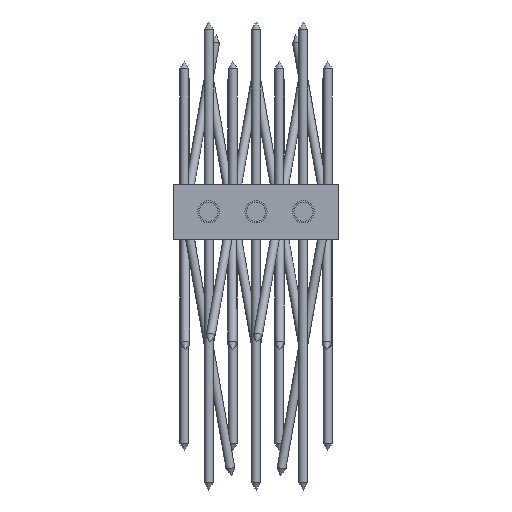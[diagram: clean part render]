
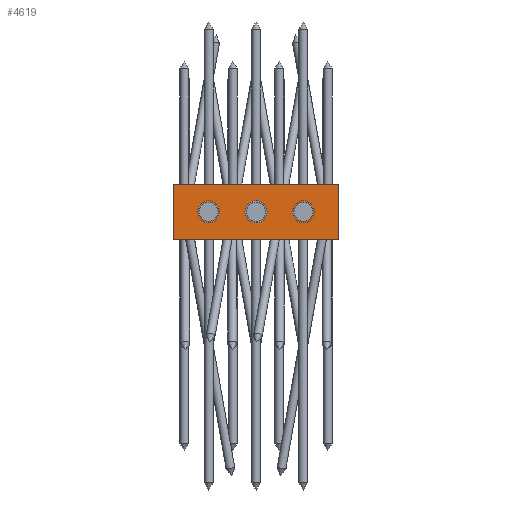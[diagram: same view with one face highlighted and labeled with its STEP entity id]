
A CAD part, front view. The second image highlights one B-rep face of the part: STEP entity #4619.
In plain terms, the highlighted planar face has unit normal (0, -1, 0) as drawn and (0, 0, 1) by its records, which use the part's own axes.
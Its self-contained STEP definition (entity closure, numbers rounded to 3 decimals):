
#339=LINE('',#8123,#619);
#347=LINE('',#8147,#627);
#348=LINE('',#8155,#628);
#349=LINE('',#8156,#629);
#619=VECTOR('',#6851,1000.);
#627=VECTOR('',#6871,1000.);
#628=VECTOR('',#6880,1000.);
#629=VECTOR('',#6881,1000.);
#1136=PLANE('',#5499);
#2166=ORIENTED_EDGE('',*,*,#2702,.F.);
#2167=ORIENTED_EDGE('',*,*,#2703,.F.);
#2168=ORIENTED_EDGE('',*,*,#2704,.F.);
#2169=ORIENTED_EDGE('',*,*,#2705,.F.);
#2170=ORIENTED_EDGE('',*,*,#2701,.F.);
#2171=ORIENTED_EDGE('',*,*,#2706,.T.);
#2172=ORIENTED_EDGE('',*,*,#2689,.T.);
#2689=EDGE_CURVE('',#3096,#3094,#339,.T.);
#2701=EDGE_CURVE('',#3105,#3104,#347,.T.);
#2702=EDGE_CURVE('',#3106,#3106,#3262,.T.);
#2703=EDGE_CURVE('',#3107,#3107,#3263,.T.);
#2704=EDGE_CURVE('',#3108,#3108,#3264,.T.);
#2705=EDGE_CURVE('',#3104,#3094,#348,.T.);
#2706=EDGE_CURVE('',#3105,#3096,#349,.T.);
#3094=VERTEX_POINT('',#8121);
#3096=VERTEX_POINT('',#8124);
#3104=VERTEX_POINT('',#8144);
#3105=VERTEX_POINT('',#8146);
#3106=VERTEX_POINT('',#8150);
#3107=VERTEX_POINT('',#8152);
#3108=VERTEX_POINT('',#8154);
#3262=CIRCLE('',#5500,8.647);
#3263=CIRCLE('',#5501,8.647);
#3264=CIRCLE('',#5502,8.647);
#3758=EDGE_LOOP('',(#2166));
#3759=EDGE_LOOP('',(#2167));
#3760=EDGE_LOOP('',(#2168));
#3761=EDGE_LOOP('',(#2169,#2170,#2171,#2172));
#4284=FACE_BOUND('',#3758,.T.);
#4285=FACE_BOUND('',#3759,.T.);
#4286=FACE_BOUND('',#3760,.T.);
#4287=FACE_BOUND('',#3761,.T.);
#4619=ADVANCED_FACE('',(#4284,#4285,#4286,#4287),#1136,.T.);
#5499=AXIS2_PLACEMENT_3D('',#8148,#6872,#6873);
#5500=AXIS2_PLACEMENT_3D('',#8149,#6874,#6875);
#5501=AXIS2_PLACEMENT_3D('',#8151,#6876,#6877);
#5502=AXIS2_PLACEMENT_3D('',#8153,#6878,#6879);
#6851=DIRECTION('',(0.,-1.,0.));
#6871=DIRECTION('',(0.,-1.,0.));
#6872=DIRECTION('',(0.,0.,1.));
#6873=DIRECTION('',(1.,0.,0.));
#6874=DIRECTION('',(0.,0.,1.));
#6875=DIRECTION('',(1.,0.,0.));
#6876=DIRECTION('',(0.,0.,1.));
#6877=DIRECTION('',(1.,0.,0.));
#6878=DIRECTION('',(0.,0.,1.));
#6879=DIRECTION('',(1.,0.,0.));
#6880=DIRECTION('',(-1.,0.,0.));
#6881=DIRECTION('',(-1.,0.,0.));
#8121=CARTESIAN_POINT('',(0.,0.,50.));
#8123=CARTESIAN_POINT('',(0.,150.,50.));
#8124=CARTESIAN_POINT('',(0.,150.,50.));
#8144=CARTESIAN_POINT('',(50.,0.,50.));
#8146=CARTESIAN_POINT('',(50.,150.,50.));
#8147=CARTESIAN_POINT('',(50.,150.,50.));
#8148=CARTESIAN_POINT('',(50.,150.,50.));
#8149=CARTESIAN_POINT('',(25.,32.,50.));
#8150=CARTESIAN_POINT('',(33.647,32.,50.));
#8151=CARTESIAN_POINT('',(25.,75.,50.));
#8152=CARTESIAN_POINT('',(33.647,75.,50.));
#8153=CARTESIAN_POINT('',(25.,118.,50.));
#8154=CARTESIAN_POINT('',(33.647,118.,50.));
#8155=CARTESIAN_POINT('',(50.,0.,50.));
#8156=CARTESIAN_POINT('',(50.,150.,50.));
